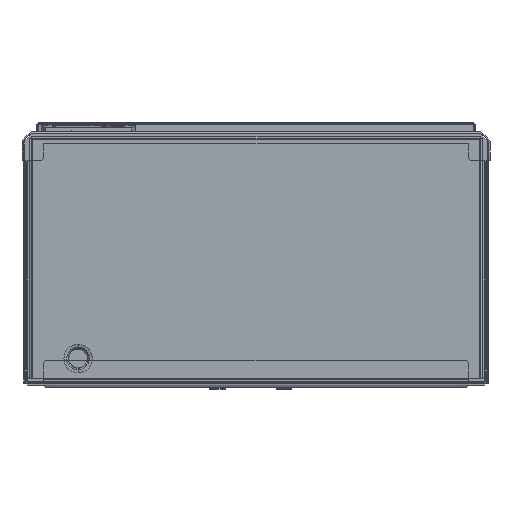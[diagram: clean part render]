
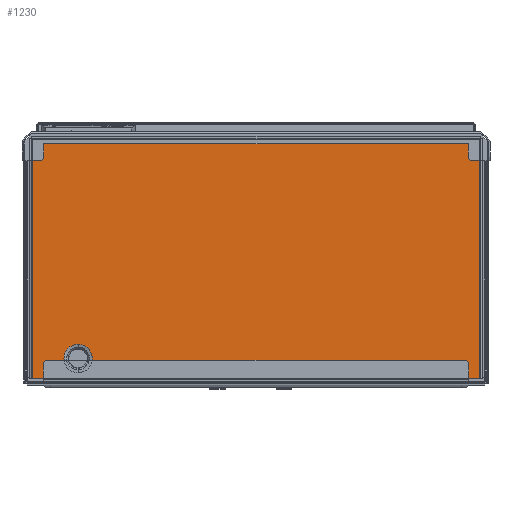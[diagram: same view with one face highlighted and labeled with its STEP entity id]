
A CAD part, front view. The second image highlights one B-rep face of the part: STEP entity #1230.
In plain terms, the highlighted planar face has unit normal (0, -1, 0).
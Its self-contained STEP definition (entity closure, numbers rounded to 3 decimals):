
#102=FACE_BOUND('',#5208,.T.);
#1230=ADVANCED_FACE('',(#3195,#102),#33803,.T.);
#3195=FACE_OUTER_BOUND('',#5207,.T.);
#5207=EDGE_LOOP('',(#9938,#9939,#9940,#9941,#9942,#9943));
#5208=EDGE_LOOP('',(#9944,#9945));
#9938=ORIENTED_EDGE('',*,*,#19695,.F.);
#9939=ORIENTED_EDGE('',*,*,#19696,.F.);
#9940=ORIENTED_EDGE('',*,*,#19697,.F.);
#9941=ORIENTED_EDGE('',*,*,#19698,.F.);
#9942=ORIENTED_EDGE('',*,*,#19699,.F.);
#9943=ORIENTED_EDGE('',*,*,#19700,.F.);
#9944=ORIENTED_EDGE('',*,*,#19778,.F.);
#9945=ORIENTED_EDGE('',*,*,#19775,.F.);
#19695=EDGE_CURVE('',#30419,#30420,#25390,.T.);
#19696=EDGE_CURVE('',#30421,#30419,#25391,.T.);
#19697=EDGE_CURVE('',#30422,#30421,#25392,.T.);
#19698=EDGE_CURVE('',#30423,#30422,#25393,.T.);
#19699=EDGE_CURVE('',#30424,#30423,#25394,.T.);
#19700=EDGE_CURVE('',#30420,#30424,#25395,.T.);
#19775=EDGE_CURVE('',#30445,#30446,#24236,.T.);
#19778=EDGE_CURVE('',#30446,#30445,#24239,.T.);
#24236=(
BOUNDED_CURVE()
B_SPLINE_CURVE(2,(#44936,#44937,#44938,#44939,#44940),.UNSPECIFIED.,.F.,
 .F.)
B_SPLINE_CURVE_WITH_KNOTS((3,2,3),(0.,19.231,38.461),
 .UNSPECIFIED.)
CURVE()
GEOMETRIC_REPRESENTATION_ITEM()
RATIONAL_B_SPLINE_CURVE((1.,0.707,1.,0.707,1.))
REPRESENTATION_ITEM('')
);
#24239=(
BOUNDED_CURVE()
B_SPLINE_CURVE(2,(#44947,#44948,#44949,#44950,#44951),.UNSPECIFIED.,.F.,
 .F.)
B_SPLINE_CURVE_WITH_KNOTS((3,2,3),(0.,19.231,38.461),
 .UNSPECIFIED.)
CURVE()
GEOMETRIC_REPRESENTATION_ITEM()
RATIONAL_B_SPLINE_CURVE((1.,0.707,1.,0.707,1.))
REPRESENTATION_ITEM('')
);
#25390=B_SPLINE_CURVE_WITH_KNOTS('',1,(#44688,#44689),.UNSPECIFIED.,.F.,
 .F.,(2,2),(-207.5,0.),.UNSPECIFIED.);
#25391=B_SPLINE_CURVE_WITH_KNOTS('',1,(#44690,#44691),.UNSPECIFIED.,.F.,
 .F.,(2,2),(-387.5,0.),.UNSPECIFIED.);
#25392=B_SPLINE_CURVE_WITH_KNOTS('',1,(#44692,#44693),.UNSPECIFIED.,.F.,
 .F.,(2,2),(-207.5,0.),.UNSPECIFIED.);
#25393=B_SPLINE_CURVE_WITH_KNOTS('',1,(#44694,#44695),.UNSPECIFIED.,.F.,
 .F.,(2,2),(-9.75,0.),.UNSPECIFIED.);
#25394=B_SPLINE_CURVE_WITH_KNOTS('',1,(#44696,#44697),.UNSPECIFIED.,.F.,
 .F.,(2,2),(-368.,0.),.UNSPECIFIED.);
#25395=B_SPLINE_CURVE_WITH_KNOTS('',1,(#44698,#44699),.UNSPECIFIED.,.F.,
 .F.,(2,2),(-9.75,0.),.UNSPECIFIED.);
#30419=VERTEX_POINT('',#44574);
#30420=VERTEX_POINT('',#44575);
#30421=VERTEX_POINT('',#44576);
#30422=VERTEX_POINT('',#44577);
#30423=VERTEX_POINT('',#44578);
#30424=VERTEX_POINT('',#44579);
#30445=VERTEX_POINT('',#44600);
#30446=VERTEX_POINT('',#44601);
#33803=PLANE('',#35683);
#35683=AXIS2_PLACEMENT_3D('',#43888,#37603,$);
#37603=DIRECTION('',(0.,-1.,0.));
#43888=CARTESIAN_POINT('',(-686.566,-642.983,-1840.868));
#44574=CARTESIAN_POINT('',(-260.315,-642.983,-1612.618));
#44575=CARTESIAN_POINT('',(-260.315,-642.983,-1820.118));
#44576=CARTESIAN_POINT('',(-647.815,-642.983,-1612.618));
#44577=CARTESIAN_POINT('',(-647.815,-642.983,-1820.118));
#44578=CARTESIAN_POINT('',(-638.065,-642.983,-1820.118));
#44579=CARTESIAN_POINT('',(-270.065,-642.983,-1820.118));
#44600=CARTESIAN_POINT('',(-608.065,-642.983,-1790.125));
#44601=CARTESIAN_POINT('',(-608.065,-642.983,-1814.61));
#44688=CARTESIAN_POINT('',(-260.315,-642.983,-1612.618));
#44689=CARTESIAN_POINT('',(-260.315,-642.983,-1820.118));
#44690=CARTESIAN_POINT('',(-647.815,-642.983,-1612.618));
#44691=CARTESIAN_POINT('',(-260.315,-642.983,-1612.618));
#44692=CARTESIAN_POINT('',(-647.815,-642.983,-1820.118));
#44693=CARTESIAN_POINT('',(-647.815,-642.983,-1612.618));
#44694=CARTESIAN_POINT('',(-638.065,-642.983,-1820.118));
#44695=CARTESIAN_POINT('',(-647.815,-642.983,-1820.118));
#44696=CARTESIAN_POINT('',(-270.065,-642.983,-1820.118));
#44697=CARTESIAN_POINT('',(-638.065,-642.983,-1820.118));
#44698=CARTESIAN_POINT('',(-260.315,-642.983,-1820.118));
#44699=CARTESIAN_POINT('',(-270.065,-642.983,-1820.118));
#44936=CARTESIAN_POINT('',(-608.065,-642.983,-1790.125));
#44937=CARTESIAN_POINT('',(-620.308,-642.983,-1790.125));
#44938=CARTESIAN_POINT('',(-620.308,-642.983,-1802.368));
#44939=CARTESIAN_POINT('',(-620.308,-642.983,-1814.61));
#44940=CARTESIAN_POINT('',(-608.065,-642.983,-1814.61));
#44947=CARTESIAN_POINT('',(-608.065,-642.983,-1814.61));
#44948=CARTESIAN_POINT('',(-595.823,-642.983,-1814.61));
#44949=CARTESIAN_POINT('',(-595.823,-642.983,-1802.368));
#44950=CARTESIAN_POINT('',(-595.823,-642.983,-1790.125));
#44951=CARTESIAN_POINT('',(-608.065,-642.983,-1790.125));
